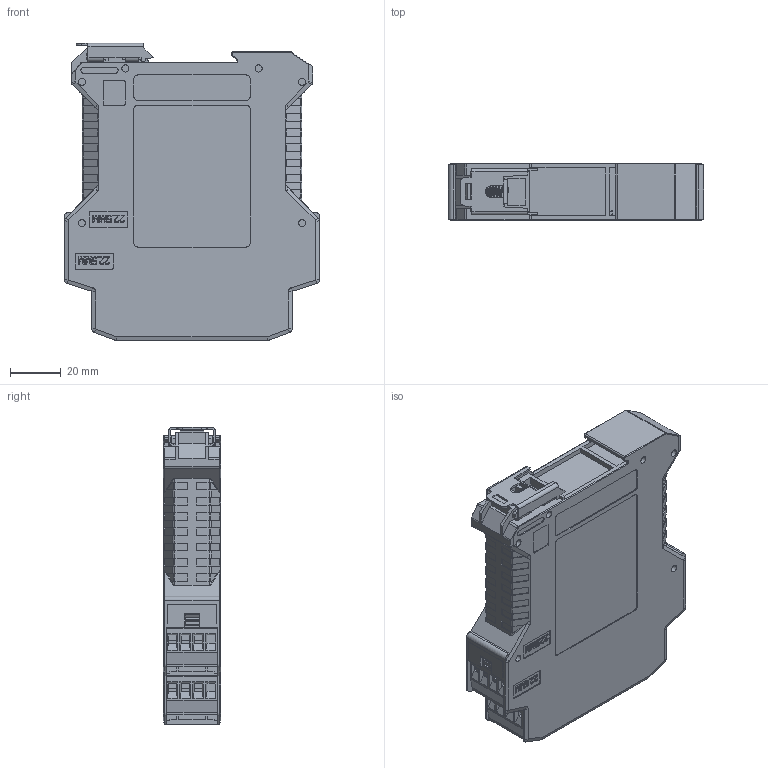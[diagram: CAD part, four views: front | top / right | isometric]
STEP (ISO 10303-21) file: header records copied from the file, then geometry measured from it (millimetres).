
FILE_DESCRIPTION((''),'2;1');
FILE_NAME('0001_ASM','2024-01-05T09:04:21',('18565748720'),(''),'CREO PARAMETRIC BY PTC INC, 2022164','CREO PARAMETRIC BY PTC INC, 2022164','');
FILE_SCHEMA(('CONFIG_CONTROL_DESIGN'));
Products named in the file (4): 20001_14; 00_3-59395; 00_3-62388; 0001_ASM
Assembly tree (3 placements, depth 2):
  0001_ASM
    20001_14
    00_3-59395
    00_3-62388
Bounding box: 100.6 x 22.6 x 117.15 mm (x, y, z)
Volume: 172997.1 mm3; surface area: 85001.4 mm2
Topology: 3 solids, 8 shells, 3169 faces, 8705 edges, 5650 vertices
Faces by surface type: plane 2605, cylinder 488, cone 44, bspline 18, torus 12, sphere 2
Entity records: 102695 total; most frequent: CARTESIAN_POINT 21237, ORIENTED_EDGE 17406, DIRECTION 16029, EDGE_CURVE 8703, VECTOR 7497, LINE 7497, VERTEX_POINT 5650, AXIS2_PLACEMENT_3D 4266
